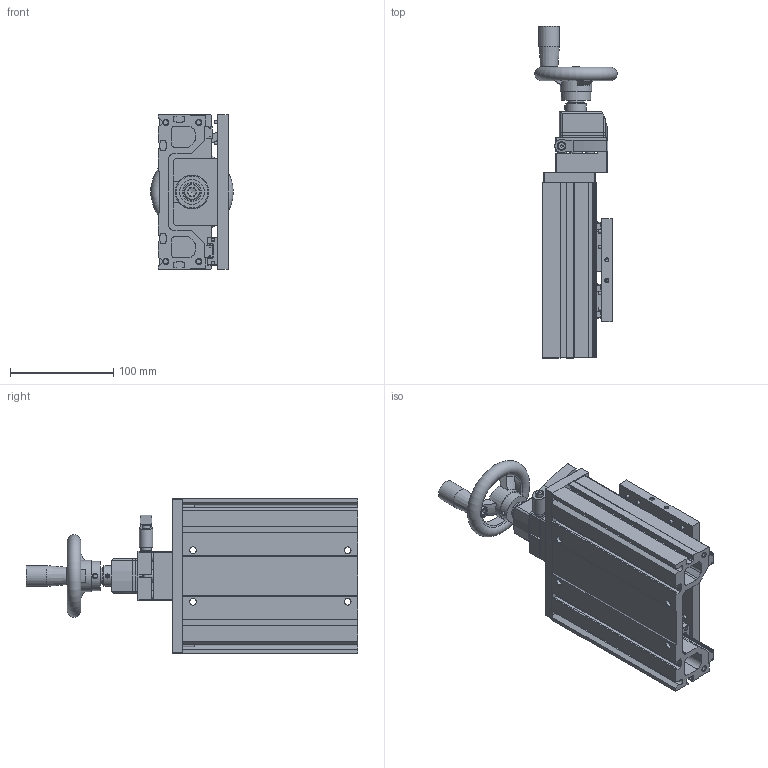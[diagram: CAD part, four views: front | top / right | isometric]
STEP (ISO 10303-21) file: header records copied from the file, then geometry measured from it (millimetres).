
FILE_DESCRIPTION((''),'2;1');
FILE_NAME('C:\Users\Administrator\Desktop\BAKULDP20-A-170.stp','2021-04-10T11:27:49',(''),(''),'STEP Write','Mastercam 2018 ... CNC Software, Inc.','');
FILE_SCHEMA(('AUTOMOTIVE_DESIGN'));
Length unit declared in the file: millimetre
Products named in the file (1): None
Bounding box: 79.99 x 322 x 150 mm (x, y, z)
Volume: 1030329.9 mm3; surface area: 327471.5 mm2
Topology: 29 solids, 29 shells, 1795 faces, 4332 edges, 2828 vertices
Faces by surface type: plane 1161, cylinder 449, cone 174, torus 11
Full cylindrical faces by diameter (mm): 2.459 x8, 3 x39, 3.242 x6, 3.5 x30, 4 x1, 4.134 x7, 4.917 x10, 5 x8, 5.1 x1, 5.2 x1, 5.5 x30, 6 x23, 6.5 x16, 6.6 x11, 6.647 x2, 8 x4, 8.376 x1, 8.5 x4, 9 x3, 9.2 x1, 10 x20, 10.2 x1, 10.5 x9, 11 x4, 12 x4, 12.2 x2, 13 x1, 14 x2, 16 x4, 17.4 x2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
Entity records: 52211 total; most frequent: CARTESIAN_POINT 9422, DIRECTION 8428, ORIENTED_EDGE 7652, EDGE_CURVE 3826, AXIS2_PLACEMENT_3D 2875, VERTEX_POINT 2767, VECTOR 2678, LINE 2678
